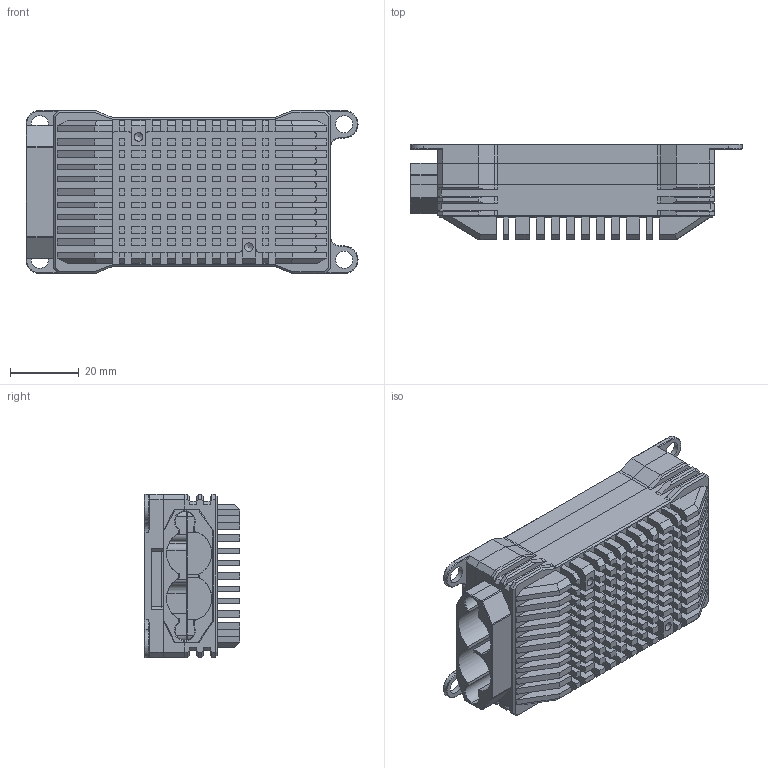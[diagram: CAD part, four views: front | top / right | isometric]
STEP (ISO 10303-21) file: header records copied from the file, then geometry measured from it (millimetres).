
FILE_DESCRIPTION(/* description */ (''),/* implementation_level */ '2;1');
FILE_NAME(/* name */ 'Aureus 185 - ANL.step',/* time_stamp */ '2026-02-19T16:30:41+01:00',/* author */ (''),/* organization */ (''),/* preprocessor_version */ 'ST-DEVELOPER v20.1',/* originating_system */ 'Autodesk Translation Framework v14.24.0.0',/* authorisation */ '');
FILE_SCHEMA (('AUTOMOTIVE_DESIGN { 1 0 10303 214 3 1 1 }'));
Length unit declared in the file: millimetre
Products named in the file (4): Aureus 185 - ANL; Oberteil; Zwischenteil; Unterteil
Assembly tree (3 placements, depth 2):
  Aureus 185 - ANL
    Oberteil
    Zwischenteil
    Unterteil
Bounding box: 96.3 x 27.69 x 47.3 mm (x, y, z)
Volume: 71787.1 mm3; surface area: 42995.3 mm2
Topology: 3 solids, 3 shells, 1273 faces, 3425 edges, 2250 vertices
Faces by surface type: plane 1071, cylinder 162, cone 40
Full cylindrical faces by diameter (mm): 1.623 x4, 2 x8, 2.529 x2, 5 x4
Entity records: 39504 total; most frequent: CARTESIAN_POINT 7085, ORIENTED_EDGE 6838, DIRECTION 6329, EDGE_CURVE 3419, LINE 3009, VECTOR 3009, VERTEX_POINT 2250, AXIS2_PLACEMENT_3D 1660
